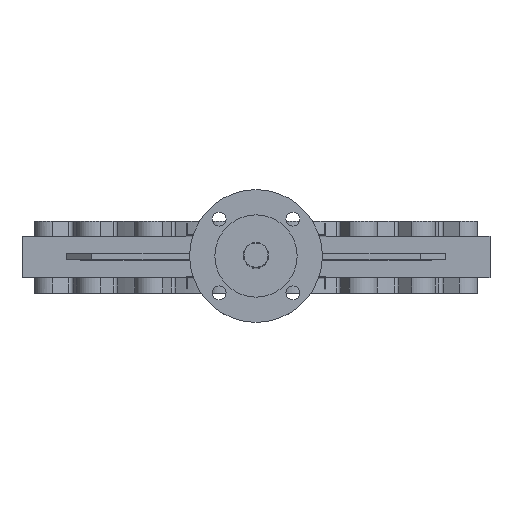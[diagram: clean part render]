
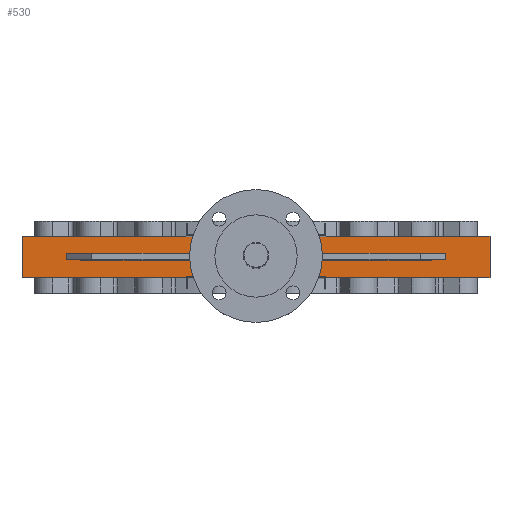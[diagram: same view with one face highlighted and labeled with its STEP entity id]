
A CAD part, top view. The second image highlights one B-rep face of the part: STEP entity #530.
In plain terms, the highlighted planar face has unit normal (0, 0, 1).
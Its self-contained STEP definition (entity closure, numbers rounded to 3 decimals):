
#530=ADVANCED_FACE('',(#3281,#3283),#3285,.T.);
#3281=FACE_BOUND('',#3282,.T.);
#3282=EDGE_LOOP('',(#5589,#5590,#5591,#5592,#5593,#5594,#5595,#5596,#5597,#5598,
#5599,#5600));
#3283=FACE_BOUND('',#3284,.T.);
#3284=EDGE_LOOP('',(#5601,#5602,#5603,#5604));
#3285=PLANE('',#3286);
#3286=AXIS2_PLACEMENT_3D('',#3287,#3288,#3289);
#3287=CARTESIAN_POINT('',(-370.,-32.5,470.));
#3288=DIRECTION('',(0.,0.,1.));
#3289=DIRECTION('',(1.,0.,0.));
#5589=ORIENTED_EDGE('',*,*,#7057,.T.);
#5590=ORIENTED_EDGE('',*,*,#7096,.T.);
#5591=ORIENTED_EDGE('',*,*,#7095,.F.);
#5592=ORIENTED_EDGE('',*,*,#7092,.F.);
#5593=ORIENTED_EDGE('',*,*,#7090,.T.);
#5594=ORIENTED_EDGE('',*,*,#7075,.T.);
#5595=ORIENTED_EDGE('',*,*,#7064,.T.);
#5596=ORIENTED_EDGE('',*,*,#7088,.T.);
#5597=ORIENTED_EDGE('',*,*,#7087,.T.);
#5598=ORIENTED_EDGE('',*,*,#7085,.T.);
#5599=ORIENTED_EDGE('',*,*,#7082,.F.);
#5600=ORIENTED_EDGE('',*,*,#7080,.T.);
#5601=ORIENTED_EDGE('',*,*,#7107,.T.);
#5602=ORIENTED_EDGE('',*,*,#7108,.T.);
#5603=ORIENTED_EDGE('',*,*,#7109,.T.);
#5604=ORIENTED_EDGE('',*,*,#7110,.T.);
#7057=EDGE_CURVE('',#7967,#7968,#7969,.T.);
#7064=EDGE_CURVE('',#7978,#7979,#7980,.F.);
#7075=EDGE_CURVE('',#7998,#7978,#7999,.F.);
#7080=EDGE_CURVE('',#8004,#7967,#8005,.T.);
#7082=EDGE_CURVE('',#8004,#8007,#8008,.T.);
#7085=EDGE_CURVE('',#8010,#8007,#8012,.T.);
#7087=EDGE_CURVE('',#8013,#8010,#8015,.T.);
#7088=EDGE_CURVE('',#7979,#8013,#8016,.F.);
#7090=EDGE_CURVE('',#8018,#7998,#8019,.T.);
#7092=EDGE_CURVE('',#8018,#8021,#8022,.T.);
#7095=EDGE_CURVE('',#8021,#8024,#8026,.T.);
#7096=EDGE_CURVE('',#7968,#8024,#8027,.T.);
#7107=EDGE_CURVE('',#8042,#8043,#8044,.T.);
#7108=EDGE_CURVE('',#8043,#8045,#8046,.T.);
#7109=EDGE_CURVE('',#8045,#8047,#8048,.F.);
#7110=EDGE_CURVE('',#8047,#8042,#8049,.F.);
#7967=VERTEX_POINT('',#9611);
#7968=VERTEX_POINT('',#9612);
#7969=LINE('',#9613,#9614);
#7978=VERTEX_POINT('',#9637);
#7979=VERTEX_POINT('',#9638);
#7980=LINE('',#9639,#9640);
#7998=VERTEX_POINT('',#9684);
#7999=LINE('',#9685,#9686);
#8004=VERTEX_POINT('',#9700);
#8005=LINE('',#9701,#9702);
#8007=VERTEX_POINT('',#9707);
#8008=LINE('',#9708,#9709);
#8010=VERTEX_POINT('',#9714);
#8012=LINE('',#9718,#9719);
#8013=VERTEX_POINT('',#9721);
#8015=LINE('',#9725,#9726);
#8016=LINE('',#9728,#9729);
#8018=VERTEX_POINT('',#9734);
#8019=LINE('',#9735,#9736);
#8021=VERTEX_POINT('',#9741);
#8022=LINE('',#9742,#9743);
#8024=VERTEX_POINT('',#9748);
#8026=LINE('',#9752,#9753);
#8027=LINE('',#9755,#9756);
#8042=VERTEX_POINT('',#9792);
#8043=VERTEX_POINT('',#9793);
#8044=LINE('',#9794,#9795);
#8045=VERTEX_POINT('',#9797);
#8046=LINE('',#9798,#9799);
#8047=VERTEX_POINT('',#9801);
#8048=LINE('',#9802,#9803);
#8049=LINE('',#9805,#9806);
#9611=CARTESIAN_POINT('',(110.,32.,470.));
#9612=CARTESIAN_POINT('',(-110.,32.,470.));
#9613=CARTESIAN_POINT('',(110.,32.,470.));
#9614=VECTOR('',#9615,1.);
#9615=DIRECTION('',(-1.,0.,0.));
#9637=CARTESIAN_POINT('',(-110.,-32.,470.));
#9638=CARTESIAN_POINT('',(110.,-32.,470.));
#9639=CARTESIAN_POINT('',(110.,-32.,470.));
#9640=VECTOR('',#9641,1.);
#9641=DIRECTION('',(-1.,0.,0.));
#9684=CARTESIAN_POINT('',(-110.,-32.5,470.));
#9685=CARTESIAN_POINT('',(-110.,-32.,470.));
#9686=VECTOR('',#9687,1.);
#9687=DIRECTION('',(0.,-1.,0.));
#9700=CARTESIAN_POINT('',(110.,32.5,470.));
#9701=CARTESIAN_POINT('',(110.,32.5,470.));
#9702=VECTOR('',#9703,1.);
#9703=DIRECTION('',(0.,-1.,0.));
#9707=CARTESIAN_POINT('',(370.,32.5,470.));
#9708=CARTESIAN_POINT('',(110.,32.5,470.));
#9709=VECTOR('',#9710,1.);
#9710=DIRECTION('',(1.,0.,0.));
#9714=CARTESIAN_POINT('',(370.,-32.5,470.));
#9718=CARTESIAN_POINT('',(370.,-32.5,470.));
#9719=VECTOR('',#9720,1.);
#9720=DIRECTION('',(0.,1.,0.));
#9721=CARTESIAN_POINT('',(110.,-32.5,470.));
#9725=CARTESIAN_POINT('',(110.,-32.5,470.));
#9726=VECTOR('',#9727,1.);
#9727=DIRECTION('',(1.,0.,0.));
#9728=CARTESIAN_POINT('',(110.,-32.5,470.));
#9729=VECTOR('',#9730,1.);
#9730=DIRECTION('',(0.,1.,0.));
#9734=CARTESIAN_POINT('',(-370.,-32.5,470.));
#9735=CARTESIAN_POINT('',(-370.,-32.5,470.));
#9736=VECTOR('',#9737,1.);
#9737=DIRECTION('',(1.,0.,0.));
#9741=CARTESIAN_POINT('',(-370.,32.5,470.));
#9742=CARTESIAN_POINT('',(-370.,-32.5,470.));
#9743=VECTOR('',#9744,1.);
#9744=DIRECTION('',(0.,1.,0.));
#9748=CARTESIAN_POINT('',(-110.,32.5,470.));
#9752=CARTESIAN_POINT('',(-370.,32.5,470.));
#9753=VECTOR('',#9754,1.);
#9754=DIRECTION('',(1.,0.,0.));
#9755=CARTESIAN_POINT('',(-110.,32.,470.));
#9756=VECTOR('',#9757,1.);
#9757=DIRECTION('',(0.,1.,0.));
#9792=CARTESIAN_POINT('',(149.666,5.,470.));
#9793=CARTESIAN_POINT('',(149.666,-5.,470.));
#9794=CARTESIAN_POINT('',(149.666,5.,470.));
#9795=VECTOR('',#9796,1.);
#9796=DIRECTION('',(0.,-1.,0.));
#9797=CARTESIAN_POINT('',(-149.666,-5.,470.));
#9798=CARTESIAN_POINT('',(149.666,-5.,470.));
#9799=VECTOR('',#9800,1.);
#9800=DIRECTION('',(-1.,0.,0.));
#9801=CARTESIAN_POINT('',(-149.666,5.,470.));
#9802=CARTESIAN_POINT('',(-149.666,5.,470.));
#9803=VECTOR('',#9804,1.);
#9804=DIRECTION('',(0.,-1.,0.));
#9805=CARTESIAN_POINT('',(149.666,5.,470.));
#9806=VECTOR('',#9807,1.);
#9807=DIRECTION('',(-1.,0.,0.));
